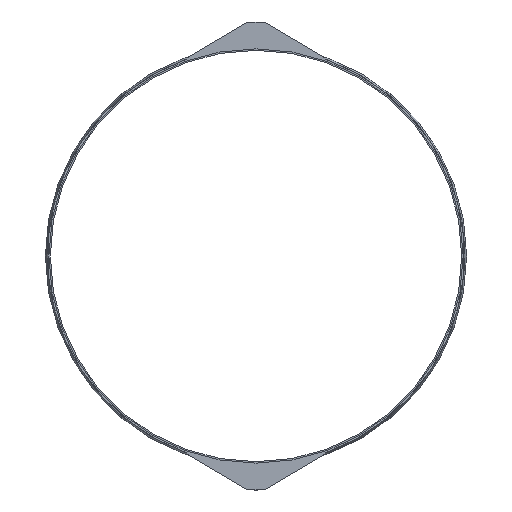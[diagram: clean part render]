
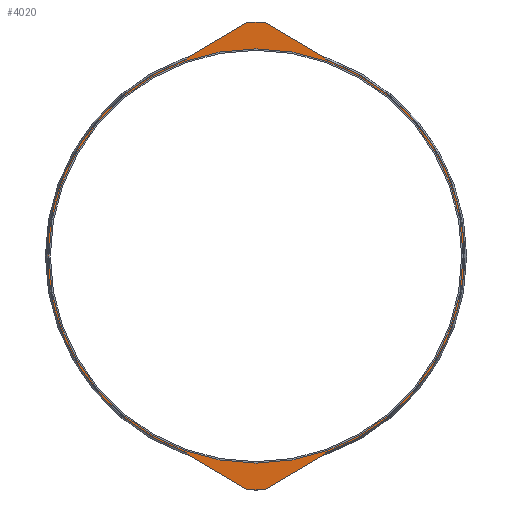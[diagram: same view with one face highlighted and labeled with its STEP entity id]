
A CAD part, left-side view. The second image highlights one B-rep face of the part: STEP entity #4020.
In plain terms, the highlighted planar face has unit normal (-1, 0, 0).
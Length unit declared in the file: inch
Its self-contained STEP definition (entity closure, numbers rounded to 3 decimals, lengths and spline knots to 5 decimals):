
#126=FACE_BOUND('',#694,.T.);
#260=PLANE('',#4387);
#463=FACE_OUTER_BOUND('',#693,.T.);
#693=EDGE_LOOP('',(#3552,#3553,#3554,#3555,#3556,#3557,#3558,#3559,#3560,
#3561,#3562,#3563,#3564,#3565,#3566,#3567,#3568,#3569,#3570,#3571));
#694=EDGE_LOOP('',(#3572,#3573));
#815=LINE('',#5799,#1188);
#819=LINE('',#5811,#1192);
#823=LINE('',#5823,#1196);
#827=LINE('',#5835,#1200);
#829=LINE('',#5840,#1202);
#1010=LINE('',#6563,#1383);
#1014=LINE('',#6575,#1387);
#1018=LINE('',#6587,#1391);
#1022=LINE('',#6597,#1395);
#1025=LINE('',#6603,#1398);
#1188=VECTOR('',#4689,0.3937);
#1192=VECTOR('',#4701,0.3937);
#1196=VECTOR('',#4713,0.3937);
#1200=VECTOR('',#4725,0.3937);
#1202=VECTOR('',#4729,0.3937);
#1383=VECTOR('',#5210,0.3937);
#1387=VECTOR('',#5222,0.3937);
#1391=VECTOR('',#5234,0.3937);
#1395=VECTOR('',#5246,0.3937);
#1398=VECTOR('',#5251,0.3937);
#1463=CIRCLE('',#4122,0.063);
#1465=CIRCLE('',#4126,0.125);
#1467=CIRCLE('',#4130,0.125);
#1469=CIRCLE('',#4134,0.063);
#1474=CIRCLE('',#4143,54.375);
#1523=CIRCLE('',#4285,0.063);
#1525=CIRCLE('',#4289,0.125);
#1527=CIRCLE('',#4293,0.125);
#1529=CIRCLE('',#4297,0.063);
#1531=CIRCLE('',#4303,54.375);
#1583=CIRCLE('',#4385,54.);
#1584=CIRCLE('',#4386,54.);
#1680=VERTEX_POINT('',#5789);
#1681=VERTEX_POINT('',#5791);
#1683=VERTEX_POINT('',#5797);
#1685=VERTEX_POINT('',#5803);
#1687=VERTEX_POINT('',#5809);
#1689=VERTEX_POINT('',#5815);
#1691=VERTEX_POINT('',#5821);
#1693=VERTEX_POINT('',#5827);
#1695=VERTEX_POINT('',#5833);
#1697=VERTEX_POINT('',#5839);
#1706=VERTEX_POINT('',#5861);
#1870=VERTEX_POINT('',#6554);
#1871=VERTEX_POINT('',#6556);
#1873=VERTEX_POINT('',#6562);
#1875=VERTEX_POINT('',#6568);
#1877=VERTEX_POINT('',#6574);
#1879=VERTEX_POINT('',#6580);
#1881=VERTEX_POINT('',#6586);
#1883=VERTEX_POINT('',#6592);
#1885=VERTEX_POINT('',#6601);
#1949=VERTEX_POINT('',#6793);
#1950=VERTEX_POINT('',#6795);
#2090=EDGE_CURVE('',#1680,#1681,#1463,.T.);
#2094=EDGE_CURVE('',#1683,#1680,#815,.T.);
#2097=EDGE_CURVE('',#1685,#1683,#1465,.T.);
#2100=EDGE_CURVE('',#1687,#1685,#819,.T.);
#2103=EDGE_CURVE('',#1689,#1687,#1467,.T.);
#2106=EDGE_CURVE('',#1691,#1689,#823,.T.);
#2109=EDGE_CURVE('',#1693,#1691,#1469,.T.);
#2112=EDGE_CURVE('',#1695,#1693,#827,.T.);
#2114=EDGE_CURVE('',#1681,#1697,#829,.T.);
#2126=EDGE_CURVE('',#1706,#1695,#1474,.T.);
#2370=EDGE_CURVE('',#1871,#1870,#1523,.T.);
#2373=EDGE_CURVE('',#1873,#1871,#1010,.T.);
#2376=EDGE_CURVE('',#1875,#1873,#1525,.T.);
#2379=EDGE_CURVE('',#1877,#1875,#1014,.T.);
#2382=EDGE_CURVE('',#1879,#1877,#1527,.T.);
#2385=EDGE_CURVE('',#1881,#1879,#1018,.T.);
#2388=EDGE_CURVE('',#1883,#1881,#1529,.T.);
#2391=EDGE_CURVE('',#1706,#1883,#1022,.T.);
#2394=EDGE_CURVE('',#1870,#1885,#1025,.T.);
#2399=EDGE_CURVE('',#1697,#1885,#1531,.T.);
#2490=EDGE_CURVE('',#1950,#1949,#1583,.T.);
#2491=EDGE_CURVE('',#1949,#1950,#1584,.T.);
#3552=ORIENTED_EDGE('',*,*,#2126,.F.);
#3553=ORIENTED_EDGE('',*,*,#2391,.T.);
#3554=ORIENTED_EDGE('',*,*,#2388,.T.);
#3555=ORIENTED_EDGE('',*,*,#2385,.T.);
#3556=ORIENTED_EDGE('',*,*,#2382,.T.);
#3557=ORIENTED_EDGE('',*,*,#2379,.T.);
#3558=ORIENTED_EDGE('',*,*,#2376,.T.);
#3559=ORIENTED_EDGE('',*,*,#2373,.T.);
#3560=ORIENTED_EDGE('',*,*,#2370,.T.);
#3561=ORIENTED_EDGE('',*,*,#2394,.T.);
#3562=ORIENTED_EDGE('',*,*,#2399,.F.);
#3563=ORIENTED_EDGE('',*,*,#2114,.F.);
#3564=ORIENTED_EDGE('',*,*,#2090,.F.);
#3565=ORIENTED_EDGE('',*,*,#2094,.F.);
#3566=ORIENTED_EDGE('',*,*,#2097,.F.);
#3567=ORIENTED_EDGE('',*,*,#2100,.F.);
#3568=ORIENTED_EDGE('',*,*,#2103,.F.);
#3569=ORIENTED_EDGE('',*,*,#2106,.F.);
#3570=ORIENTED_EDGE('',*,*,#2109,.F.);
#3571=ORIENTED_EDGE('',*,*,#2112,.F.);
#3572=ORIENTED_EDGE('',*,*,#2490,.T.);
#3573=ORIENTED_EDGE('',*,*,#2491,.T.);
#4020=ADVANCED_FACE('',(#463,#126),#260,.T.);
#4122=AXIS2_PLACEMENT_3D('',#5792,#4682,#4683);
#4126=AXIS2_PLACEMENT_3D('',#5805,#4695,#4696);
#4130=AXIS2_PLACEMENT_3D('',#5817,#4707,#4708);
#4134=AXIS2_PLACEMENT_3D('',#5829,#4719,#4720);
#4143=AXIS2_PLACEMENT_3D('',#5863,#4749,#4750);
#4285=AXIS2_PLACEMENT_3D('',#6557,#5204,#5205);
#4289=AXIS2_PLACEMENT_3D('',#6569,#5216,#5217);
#4293=AXIS2_PLACEMENT_3D('',#6581,#5228,#5229);
#4297=AXIS2_PLACEMENT_3D('',#6593,#5240,#5241);
#4303=AXIS2_PLACEMENT_3D('',#6613,#5261,#5262);
#4385=AXIS2_PLACEMENT_3D('',#6796,#5464,#5465);
#4386=AXIS2_PLACEMENT_3D('',#6797,#5466,#5467);
#4387=AXIS2_PLACEMENT_3D('',#6798,#5468,#5469);
#4682=DIRECTION('center_axis',(1.,0.,0.));
#4683=DIRECTION('ref_axis',(0.,-1.,0.));
#4689=DIRECTION('',(0.,0.862,0.508));
#4695=DIRECTION('center_axis',(1.,0.,0.));
#4696=DIRECTION('ref_axis',(0.,-0.508,0.862));
#4701=DIRECTION('',(0.,1.,0.));
#4707=DIRECTION('center_axis',(1.,0.,0.));
#4708=DIRECTION('ref_axis',(0.,0.,1.));
#4713=DIRECTION('',(0.,0.862,-0.508));
#4719=DIRECTION('center_axis',(1.,0.,0.));
#4720=DIRECTION('ref_axis',(0.,0.508,0.862));
#4725=DIRECTION('',(0.,0.,-1.));
#4729=DIRECTION('',(0.,0.,1.));
#4749=DIRECTION('center_axis',(1.,0.,0.));
#4750=DIRECTION('ref_axis',(0.,0.,-1.));
#5204=DIRECTION('center_axis',(-1.,0.,0.));
#5205=DIRECTION('ref_axis',(0.,-1.,0.));
#5210=DIRECTION('',(0.,0.862,-0.508));
#5216=DIRECTION('center_axis',(-1.,0.,0.));
#5217=DIRECTION('ref_axis',(0.,-0.508,-0.862));
#5222=DIRECTION('',(0.,1.,0.));
#5228=DIRECTION('center_axis',(-1.,0.,0.));
#5229=DIRECTION('ref_axis',(0.,0.,-1.));
#5234=DIRECTION('',(0.,0.862,0.508));
#5240=DIRECTION('center_axis',(-1.,0.,0.));
#5241=DIRECTION('ref_axis',(0.,0.508,-0.862));
#5246=DIRECTION('',(0.,0.,1.));
#5251=DIRECTION('',(0.,0.,-1.));
#5261=DIRECTION('center_axis',(1.,0.,0.));
#5262=DIRECTION('ref_axis',(0.,0.,-1.));
#5464=DIRECTION('center_axis',(1.,0.,0.));
#5465=DIRECTION('ref_axis',(0.,0.,-1.));
#5466=DIRECTION('center_axis',(1.,0.,0.));
#5467=DIRECTION('ref_axis',(0.,0.,-1.));
#5468=DIRECTION('center_axis',(-1.,0.,0.));
#5469=DIRECTION('ref_axis',(0.,0.,1.));
#5789=CARTESIAN_POINT('',(-6.25,17.96898,-51.70254));
#5791=CARTESIAN_POINT('',(-6.25,18.,-51.64826));
#5792=CARTESIAN_POINT('Origin',(-6.25,17.937,-51.64826));
#5797=CARTESIAN_POINT('',(-6.25,2.42937,-60.8577));
#5799=CARTESIAN_POINT('',(-6.25,2.42937,-60.8577));
#5803=CARTESIAN_POINT('',(-6.25,2.36592,-60.875));
#5805=CARTESIAN_POINT('Origin',(-6.25,2.36592,-60.75));
#5809=CARTESIAN_POINT('',(-6.25,-2.36592,-60.875));
#5811=CARTESIAN_POINT('',(-6.25,0.,-60.875));
#5815=CARTESIAN_POINT('',(-6.25,-2.42937,-60.8577));
#5817=CARTESIAN_POINT('Origin',(-6.25,-2.36592,-60.75));
#5821=CARTESIAN_POINT('',(-6.25,-17.96898,-51.70254));
#5823=CARTESIAN_POINT('',(-6.25,-17.96898,-51.70254));
#5827=CARTESIAN_POINT('',(-6.25,-18.,-51.64826));
#5829=CARTESIAN_POINT('Origin',(-6.25,-17.937,-51.64826));
#5833=CARTESIAN_POINT('',(-6.25,-18.,-51.30926));
#5835=CARTESIAN_POINT('',(-6.25,-18.,-51.30926));
#5839=CARTESIAN_POINT('',(-6.25,18.,-51.30926));
#5840=CARTESIAN_POINT('',(-6.25,18.,-51.64826));
#5861=CARTESIAN_POINT('',(-6.25,-18.,51.30926));
#5863=CARTESIAN_POINT('Origin',(-6.25,0.,0.));
#6554=CARTESIAN_POINT('',(-6.25,18.,51.64826));
#6556=CARTESIAN_POINT('',(-6.25,17.96898,51.70254));
#6557=CARTESIAN_POINT('Origin',(-6.25,17.937,51.64826));
#6562=CARTESIAN_POINT('',(-6.25,2.42937,60.8577));
#6563=CARTESIAN_POINT('',(-6.25,2.42937,60.8577));
#6568=CARTESIAN_POINT('',(-6.25,2.36592,60.875));
#6569=CARTESIAN_POINT('Origin',(-6.25,2.36592,60.75));
#6574=CARTESIAN_POINT('',(-6.25,-2.36592,60.875));
#6575=CARTESIAN_POINT('',(-6.25,0.,60.875));
#6580=CARTESIAN_POINT('',(-6.25,-2.42937,60.8577));
#6581=CARTESIAN_POINT('Origin',(-6.25,-2.36592,60.75));
#6586=CARTESIAN_POINT('',(-6.25,-17.96898,51.70254));
#6587=CARTESIAN_POINT('',(-6.25,-17.96898,51.70254));
#6592=CARTESIAN_POINT('',(-6.25,-18.,51.64826));
#6593=CARTESIAN_POINT('Origin',(-6.25,-17.937,51.64826));
#6597=CARTESIAN_POINT('',(-6.25,-18.,51.30926));
#6601=CARTESIAN_POINT('',(-6.25,18.,51.30926));
#6603=CARTESIAN_POINT('',(-6.25,18.,51.64826));
#6613=CARTESIAN_POINT('Origin',(-6.25,0.,0.));
#6793=CARTESIAN_POINT('',(-6.25,-54.,0.));
#6795=CARTESIAN_POINT('',(-6.25,54.,0.));
#6796=CARTESIAN_POINT('Origin',(-6.25,0.,0.));
#6797=CARTESIAN_POINT('Origin',(-6.25,0.,0.));
#6798=CARTESIAN_POINT('Origin',(-6.25,54.375,0.));
